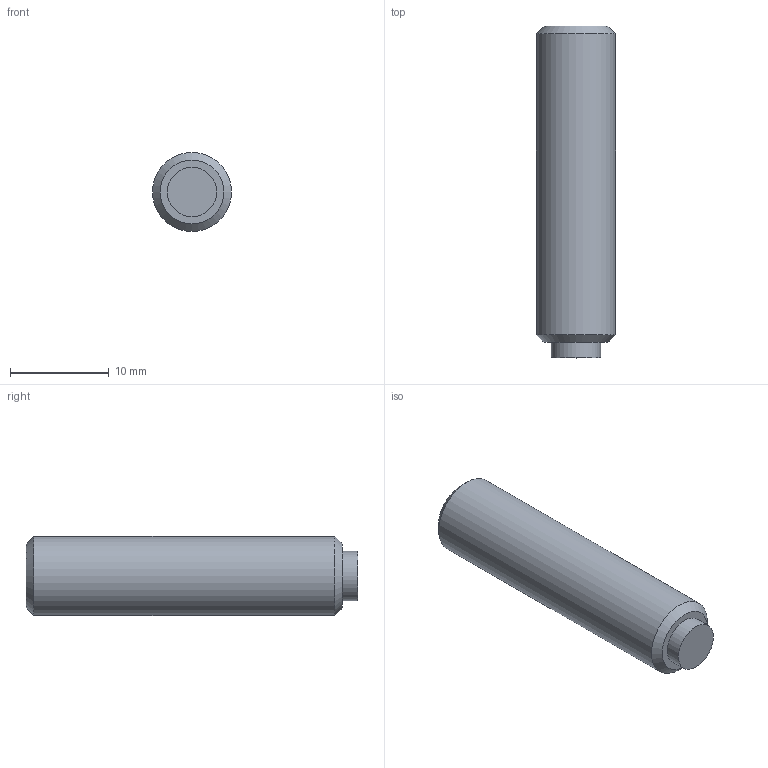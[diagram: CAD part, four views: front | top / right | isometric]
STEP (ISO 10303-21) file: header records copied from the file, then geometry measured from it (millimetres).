
FILE_DESCRIPTION( ( 'STEP AP203' ), '1' );
FILE_NAME( 'C:/Temp/Ganter_Step_05_03_2020/data/3_2/gn913_3/Grub screw GN 913.3-M8-32-KU.stp', '2020-03-13T05:35:38', ( 'License CC BY-ND 4.0' ), ( 'CADENAS' ), ' ', 'PARTsolutions', ' ' );
FILE_SCHEMA( ( 'CONFIG_CONTROL_DESIGN' ) );
Length unit declared in the file: millimetre
Products named in the file (1): _Grub screw GN 913.3-M8-32-KU
Bounding box: 8 x 33.6 x 8 mm (x, y, z)
Volume: 1556.8 mm3; surface area: 975.1 mm2
Topology: 1 solids, 1 shells, 14 faces, 28 edges, 18 vertices
Faces by surface type: plane 10, cylinder 2, cone 2
Full cylindrical faces by diameter (mm): 5 x1, 8 x1
Entity records: 386 total; most frequent: DIRECTION 60, CARTESIAN_POINT 57, ORIENTED_EDGE 48, EDGE_CURVE 24, AXIS2_PLACEMENT_3D 21, EDGE_LOOP 20, VERTEX_POINT 18, LINE 18
